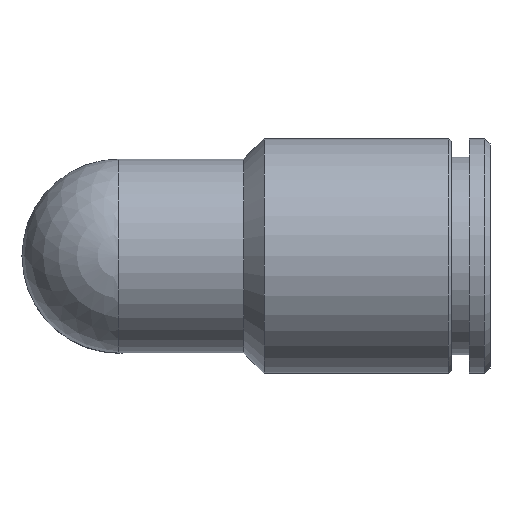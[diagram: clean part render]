
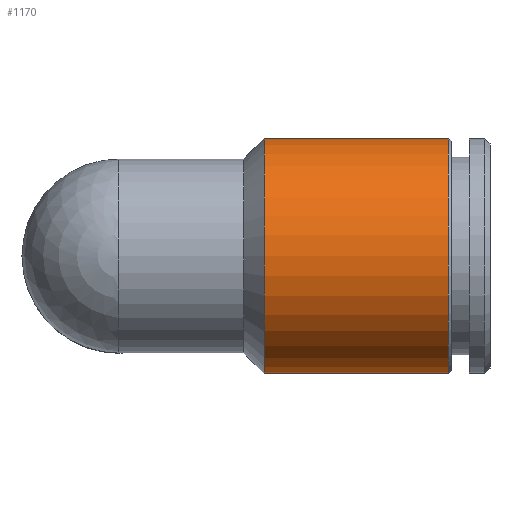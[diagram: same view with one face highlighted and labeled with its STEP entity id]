
A CAD part, top view. The second image highlights one B-rep face of the part: STEP entity #1170.
In plain terms, the highlighted cylindrical face has radius 8.5 mm (diameter 17 mm), a full revolution.
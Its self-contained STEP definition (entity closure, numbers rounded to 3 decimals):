
#1170=ADVANCED_FACE('', (#1180,#1190), #1200, .T.);
#3820=AXIS2_PLACEMENT_3D('Ax2Pl3d', #3830, #3840, #3850);
#3900=AXIS2_PLACEMENT_3D('Ax2Pl3d', #3910, #3920, #3930);
#3940=AXIS2_PLACEMENT_3D('Ax2Pl3d', #3950, #3960, #3970);
#3830=CARTESIAN_POINT('HicPkt', (-3.412,75.917,
18.024));
#6200=CARTESIAN_POINT('', (-3.412,75.917,26.524));
#3910=CARTESIAN_POINT('HicPkt', (9.888,75.917,
18.024));
#6210=CARTESIAN_POINT('', (9.888,75.917,26.524));
#3950=CARTESIAN_POINT('HicPkt', (-3.412,75.917,
18.024));
#6530=CIRCLE('Circle', #3820, 8.5);
#6540=CIRCLE('Circle', #3900, 8.5);
#1200=CYLINDRICAL_SURFACE('Zyl', #3940, 8.5);
#3840=DIRECTION('Axis', (1.,0.,0.));
#3850=DIRECTION('RefDirection', (0.,0.,-1.));
#3920=DIRECTION('Axis', (1.,0.,0.));
#3930=DIRECTION('RefDirection', (0.,0.,-1.));
#3960=DIRECTION('Axis', (1.,0.,0.));
#3970=DIRECTION('RefDirection', (0.,0.,-1.));
#8460=EDGE_CURVE('', #8470, #8470, #6530, .T.);
#8480=EDGE_CURVE('', #8490, #8490, #6540, .T.);
#9740=EDGE_LOOP('Edge_loop', (#9750));
#9760=EDGE_LOOP('Edge_loop', (#9770));
#1190=FACE_BOUND('', #9760, .T.);
#1180=FACE_OUTER_BOUND('Face_outer_bound', #9740, .T.);
#9750=ORIENTED_EDGE('', *, *, #8480, .F.);
#9770=ORIENTED_EDGE('', *, *, #8460, .T.);
#8470=VERTEX_POINT('', #6200);
#8490=VERTEX_POINT('', #6210);
